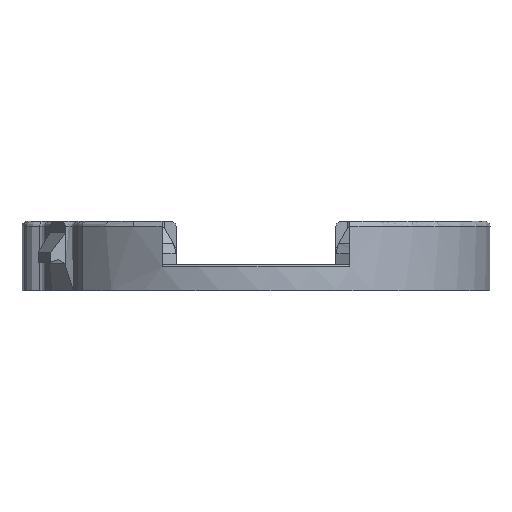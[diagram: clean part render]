
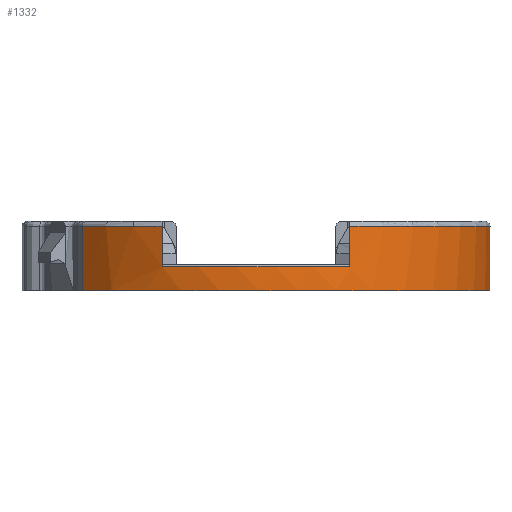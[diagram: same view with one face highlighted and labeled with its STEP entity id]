
A CAD part, left-side view. The second image highlights one B-rep face of the part: STEP entity #1332.
In plain terms, the highlighted cylindrical face has radius 23.3 mm (diameter 46.6 mm), a partial arc.
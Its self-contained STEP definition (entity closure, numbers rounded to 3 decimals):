
#85=CARTESIAN_POINT('',(-15.628,17.282,6.4));
#86=VERTEX_POINT('',#85);
#94=CARTESIAN_POINT('',(-21.342,9.35,6.4));
#95=VERTEX_POINT('',#94);
#96=CARTESIAN_POINT('',(0.,-0.,6.4));
#97=DIRECTION('',(0.,0.,-1.));
#98=DIRECTION('',(0.296,-0.955,0.));
#99=AXIS2_PLACEMENT_3D('',#96,#97,#98);
#100=CIRCLE('',#99,23.3);
#101=EDGE_CURVE('',#95,#86,#100,.T.);
#815=CARTESIAN_POINT('',(-21.342,9.35,2.4));
#816=VERTEX_POINT('',#815);
#838=CARTESIAN_POINT('',(-21.342,9.35,6.4));
#839=DIRECTION('',(0.,0.,-1.));
#840=VECTOR('',#839,4.);
#841=LINE('',#838,#840);
#842=EDGE_CURVE('',#95,#816,#841,.T.);
#927=CARTESIAN_POINT('',(3.193,-23.08,-0.));
#928=VERTEX_POINT('',#927);
#929=CARTESIAN_POINT('',(-15.628,17.282,0.));
#930=VERTEX_POINT('',#929);
#931=CARTESIAN_POINT('',(0.,0.,0.));
#932=DIRECTION('',(0.,0.,-1.));
#933=DIRECTION('',(1.,0.,0.));
#934=AXIS2_PLACEMENT_3D('',#931,#932,#933);
#935=CIRCLE('',#934,23.3);
#936=EDGE_CURVE('',#928,#930,#935,.T.);
#1284=CARTESIAN_POINT('',(0.,0.,3.45));
#1285=DIRECTION('',(0.,0.,-1.));
#1286=DIRECTION('',(1.,0.,0.));
#1287=AXIS2_PLACEMENT_3D('',#1284,#1285,#1286);
#1288=CYLINDRICAL_SURFACE('',#1287,23.3);
#1289=CARTESIAN_POINT('',(-15.628,17.282,6.4));
#1290=DIRECTION('',(0.,0.,-1.));
#1291=VECTOR('',#1290,6.4);
#1292=LINE('',#1289,#1291);
#1293=EDGE_CURVE('',#86,#930,#1292,.T.);
#1294=ORIENTED_EDGE('',*,*,#1293,.T.);
#1295=ORIENTED_EDGE('',*,*,#936,.F.);
#1296=CARTESIAN_POINT('',(3.193,-23.08,6.4));
#1297=VERTEX_POINT('',#1296);
#1298=CARTESIAN_POINT('',(3.193,-23.08,6.4));
#1299=DIRECTION('',(0.,0.,-1.));
#1300=VECTOR('',#1299,6.4);
#1301=LINE('',#1298,#1300);
#1302=EDGE_CURVE('',#1297,#928,#1301,.T.);
#1303=ORIENTED_EDGE('',*,*,#1302,.F.);
#1304=CARTESIAN_POINT('',(-21.342,-9.35,6.4));
#1305=VERTEX_POINT('',#1304);
#1306=CARTESIAN_POINT('',(0.,0.,6.4));
#1307=DIRECTION('',(0.,0.,-1.));
#1308=DIRECTION('',(1.,0.,0.));
#1309=AXIS2_PLACEMENT_3D('',#1306,#1307,#1308);
#1310=CIRCLE('',#1309,23.3);
#1311=EDGE_CURVE('',#1297,#1305,#1310,.T.);
#1312=ORIENTED_EDGE('',*,*,#1311,.T.);
#1313=CARTESIAN_POINT('',(-21.342,-9.35,2.4));
#1314=VERTEX_POINT('',#1313);
#1315=CARTESIAN_POINT('',(-21.342,-9.35,2.4));
#1316=DIRECTION('',(-0.,-0.,1.));
#1317=VECTOR('',#1316,4.);
#1318=LINE('',#1315,#1317);
#1319=EDGE_CURVE('',#1314,#1305,#1318,.T.);
#1320=ORIENTED_EDGE('',*,*,#1319,.F.);
#1321=CARTESIAN_POINT('',(0.,0.,2.4));
#1322=DIRECTION('',(-0.,-0.,1.));
#1323=DIRECTION('',(1.,0.,0.));
#1324=AXIS2_PLACEMENT_3D('',#1321,#1322,#1323);
#1325=CIRCLE('',#1324,23.3);
#1326=EDGE_CURVE('',#816,#1314,#1325,.T.);
#1327=ORIENTED_EDGE('',*,*,#1326,.F.);
#1328=ORIENTED_EDGE('',*,*,#842,.F.);
#1329=ORIENTED_EDGE('',*,*,#101,.T.);
#1330=EDGE_LOOP('',(#1294,#1295,#1303,#1312,#1320,#1327,#1328,#1329));
#1331=FACE_BOUND('',#1330,.T.);
#1332=ADVANCED_FACE('',(#1331),#1288,.T.);
